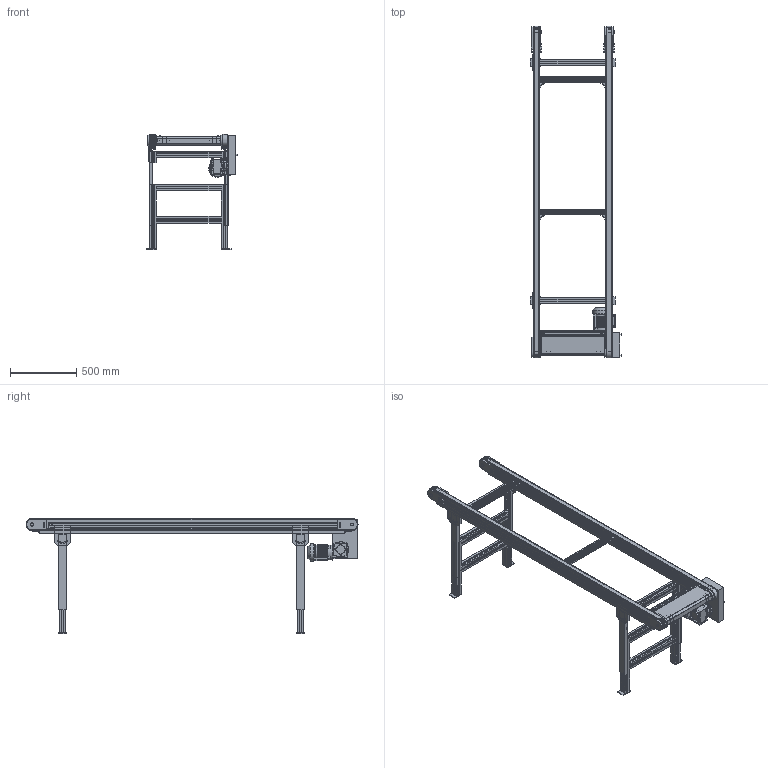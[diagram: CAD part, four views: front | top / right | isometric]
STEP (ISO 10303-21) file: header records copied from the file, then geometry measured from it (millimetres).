
FILE_DESCRIPTION(/* description */ (''),/* implementation_level */ '2;1');
FILE_NAME(/* name */ 'C:\Marketing\01_Versamove-SPU_STEP-Dateien-Homepage\Versamove plus\STEP-Dateien\Zahnriemenförderer_ZRF-P-2010_B600_L2500.stp',/* time_stamp */ '2016-12-22T11:50:25+01:00',/* author */ ('herbert.engels'),/* organization */ (''),/* preprocessor_version */ 'ST-DEVELOPER v15.6',/* originating_system */ 'Autodesk Inventor 2015',/* authorisation */ '');
FILE_SCHEMA (('CONFIG_CONTROL_DESIGN'));
Products named in the file (1): Zahnriemenförderer_ZRF-P-2010_B600_L2500
Bounding box: 690.65 x 2511.13 x 870.56 mm (x, y, z)
Volume: 37446874.6 mm3; surface area: 8725110.6 mm2
Topology: 3 solids, 3 shells, 3822 faces, 11451 edges, 7424 vertices
Faces by surface type: plane 2630, cylinder 891, bspline 172, cone 116, torus 11, sphere 2
Full cylindrical faces by diameter (mm): 7 x4, 8 x32, 13 x12, 16.2 x4, 19 x2, 20 x5, 24 x1, 25.5 x4, 30 x1, 35 x6, 40 x4, 56 x2, 72 x1, 87.127 x1, 117 x1, 120 x1, 132 x1
Entity records: 135251 total; most frequent: CARTESIAN_POINT 28828, ORIENTED_EDGE 22598, DIRECTION 20148, EDGE_CURVE 11289, LINE 8262, VECTOR 8262, VERTEX_POINT 7386, AXIS2_PLACEMENT_3D 5943
